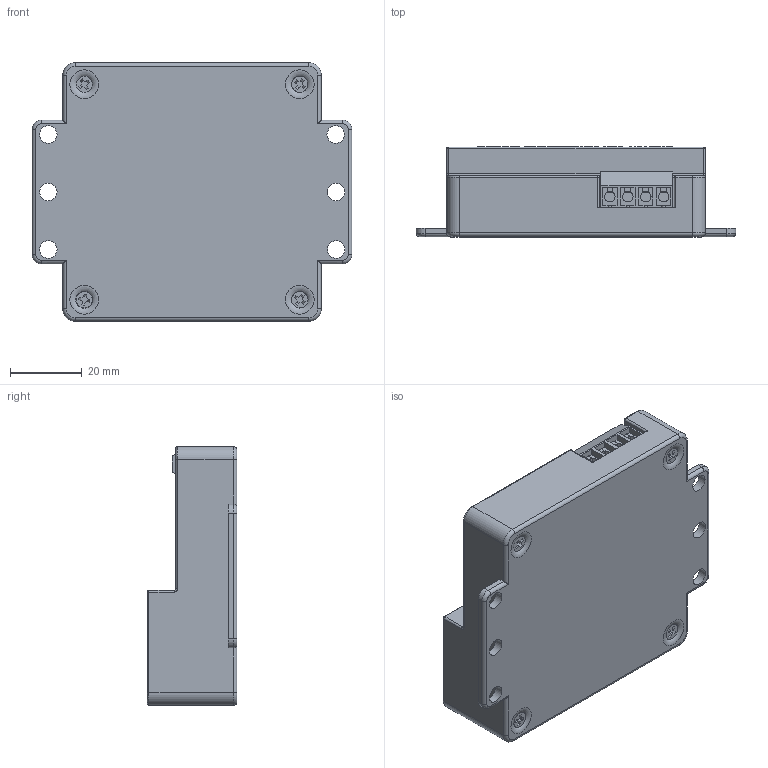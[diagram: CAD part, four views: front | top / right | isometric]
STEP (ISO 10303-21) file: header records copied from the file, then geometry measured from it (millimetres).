
FILE_DESCRIPTION(/* description */ (''),/* implementation_level */ '2;1');
FILE_NAME(/* name */ 'D:\FIRST\FTC KOP 2017\FTC 2017 KOP\Tetrix STEP\Miscellaneous\Tetrix_991445.ipt.step',/* time_stamp */ '2017-01-03T09:05:54-08:00',/* author */ ('Autodesk Inc.'),/* organization */ ('Autodesk Inc.'),/* preprocessor_version */ 'ST-DEVELOPER v16.5',/* originating_system */ 'Autodesk Inventor 2017',/* authorisation */ '');
FILE_SCHEMA (('AUTOMOTIVE_DESIGN { 1 0 10303 214 3 1 1 }'));
Products named in the file (1): 991445
Bounding box: 89 x 25.03 x 72 mm (x, y, z)
Volume: 36467.1 mm3; surface area: 39276.6 mm2
Topology: 7 solids, 19 shells, 2284 faces, 6079 edges, 3978 vertices
Faces by surface type: plane 1448, bspline 513, cone 140, cylinder 134, torus 45, sphere 4
Full cylindrical faces by diameter (mm): 1 x4, 2.4 x8, 2.5 x4, 2.9 x4, 3 x4, 3.7 x8, 4 x4, 4.85 x6, 5 x7
Entity records: 96992 total; most frequent: CARTESIAN_POINT 44055, ORIENTED_EDGE 11908, DIRECTION 8757, EDGE_CURVE 5952, LINE 4335, VECTOR 4335, VERTEX_POINT 3935, EDGE_LOOP 2595
